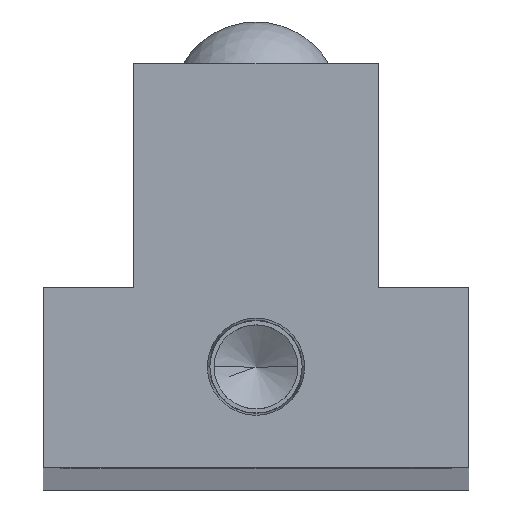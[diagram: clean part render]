
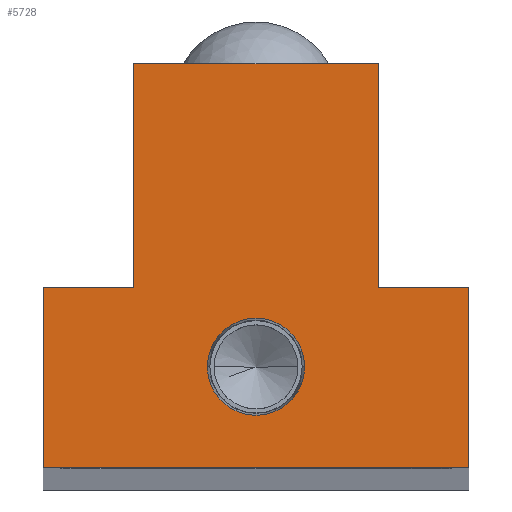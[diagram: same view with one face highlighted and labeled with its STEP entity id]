
A CAD part, top view. The second image highlights one B-rep face of the part: STEP entity #5728.
In plain terms, the highlighted planar face has unit normal (0, 0, 1).
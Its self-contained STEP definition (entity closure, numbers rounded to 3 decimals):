
#17 = ORIENTED_EDGE ( 'NONE', *, *, #5307, .T. ) ;
#62 = EDGE_CURVE ( 'NONE', #5877, #4451, #232, .T. ) ;
#123 = EDGE_CURVE ( 'NONE', #2666, #1531, #3131, .T. ) ;
#218 = VERTEX_POINT ( 'NONE', #4089 ) ;
#232 = LINE ( 'NONE', #7573, #6408 ) ;
#339 = FACE_BOUND ( 'NONE', #4722, .T. ) ;
#433 = DIRECTION ( 'NONE',  ( -1., 0., 0. ) ) ;
#442 = DIRECTION ( 'NONE',  ( -1., 0., 0. ) ) ;
#720 = AXIS2_PLACEMENT_3D ( 'NONE', #7085, #7626, #7654 ) ;
#988 = CARTESIAN_POINT ( 'NONE',  ( -20., 0., 0. ) ) ;
#1037 = DIRECTION ( 'NONE',  ( 0., 0., -1. ) ) ;
#1202 = ORIENTED_EDGE ( 'NONE', *, *, #7151, .T. ) ;
#1350 = CARTESIAN_POINT ( 'NONE',  ( -11.5, 38., 0. ) ) ;
#1394 = ORIENTED_EDGE ( 'NONE', *, *, #123, .F. ) ;
#1531 = VERTEX_POINT ( 'NONE', #6527 ) ;
#1692 = CARTESIAN_POINT ( 'NONE',  ( 11.5, 17., 0. ) ) ;
#1889 = EDGE_CURVE ( 'NONE', #6484, #218, #4611, .T. ) ;
#2115 = VECTOR ( 'NONE', #3926, 1000. ) ;
#2203 = VECTOR ( 'NONE', #442, 1000. ) ;
#2256 = ORIENTED_EDGE ( 'NONE', *, *, #1889, .T. ) ;
#2366 = CARTESIAN_POINT ( 'NONE',  ( 0., 9.5, 0. ) ) ;
#2529 = AXIS2_PLACEMENT_3D ( 'NONE', #7537, #1037, #433 ) ;
#2542 = VERTEX_POINT ( 'NONE', #1692 ) ;
#2606 = EDGE_CURVE ( 'NONE', #1531, #2666, #3866, .T. ) ;
#2666 = VERTEX_POINT ( 'NONE', #5925 ) ;
#2826 = DIRECTION ( 'NONE',  ( 0., 1., 0. ) ) ;
#2965 = DIRECTION ( 'NONE',  ( 1., 0., 0. ) ) ;
#3073 = LINE ( 'NONE', #6481, #6011 ) ;
#3131 = CIRCLE ( 'NONE', #720, 4.574 ) ;
#3155 = ORIENTED_EDGE ( 'NONE', *, *, #5122, .T. ) ;
#3248 = ORIENTED_EDGE ( 'NONE', *, *, #4339, .T. ) ;
#3366 = EDGE_CURVE ( 'NONE', #6298, #5877, #7094, .T. ) ;
#3424 = ORIENTED_EDGE ( 'NONE', *, *, #3366, .T. ) ;
#3478 = CARTESIAN_POINT ( 'NONE',  ( 11.5, 38., 0. ) ) ;
#3534 = ORIENTED_EDGE ( 'NONE', *, *, #62, .T. ) ;
#3671 = ORIENTED_EDGE ( 'NONE', *, *, #4876, .T. ) ;
#3724 = AXIS2_PLACEMENT_3D ( 'NONE', #2366, #6459, #2965 ) ;
#3726 = LINE ( 'NONE', #6211, #2115 ) ;
#3834 = VECTOR ( 'NONE', #5218, 1000. ) ;
#3866 = CIRCLE ( 'NONE', #3724, 4.574 ) ;
#3926 = DIRECTION ( 'NONE',  ( -1., 0., 0. ) ) ;
#4089 = CARTESIAN_POINT ( 'NONE',  ( -11.5, 17., 0. ) ) ;
#4147 = DIRECTION ( 'NONE',  ( 0., -1., 0. ) ) ;
#4339 = EDGE_CURVE ( 'NONE', #2542, #5701, #4586, .T. ) ;
#4356 = CARTESIAN_POINT ( 'NONE',  ( 20., 0., 0. ) ) ;
#4451 = VERTEX_POINT ( 'NONE', #5770 ) ;
#4586 = LINE ( 'NONE', #6321, #7080 ) ;
#4611 = LINE ( 'NONE', #7002, #5954 ) ;
#4711 = DIRECTION ( 'NONE',  ( 1., 0., 0. ) ) ;
#4722 = EDGE_LOOP ( 'NONE', ( #5451, #1394 ) ) ;
#4744 = VERTEX_POINT ( 'NONE', #5112 ) ;
#4752 = DIRECTION ( 'NONE',  ( -1., 0., 0. ) ) ;
#4876 = EDGE_CURVE ( 'NONE', #4744, #6298, #6707, .T. ) ;
#5024 = FACE_OUTER_BOUND ( 'NONE', #6499, .T. ) ;
#5112 = CARTESIAN_POINT ( 'NONE',  ( -20., 17., 0. ) ) ;
#5122 = EDGE_CURVE ( 'NONE', #4451, #2542, #3726, .T. ) ;
#5218 = DIRECTION ( 'NONE',  ( 0., -1., 0. ) ) ;
#5307 = EDGE_CURVE ( 'NONE', #5701, #6484, #6878, .T. ) ;
#5451 = ORIENTED_EDGE ( 'NONE', *, *, #2606, .F. ) ;
#5592 = VECTOR ( 'NONE', #4711, 1000. ) ;
#5701 = VERTEX_POINT ( 'NONE', #3478 ) ;
#5728 = ADVANCED_FACE ( 'NONE', ( #339, #5024 ), #6974, .F. ) ;
#5770 = CARTESIAN_POINT ( 'NONE',  ( 20., 17., 0. ) ) ;
#5825 = CARTESIAN_POINT ( 'NONE',  ( 20., 0., 0. ) ) ;
#5877 = VERTEX_POINT ( 'NONE', #4356 ) ;
#5919 = CARTESIAN_POINT ( 'NONE',  ( -20., 0., 0. ) ) ;
#5925 = CARTESIAN_POINT ( 'NONE',  ( -4.574, 9.5, 0. ) ) ;
#5954 = VECTOR ( 'NONE', #4147, 1000. ) ;
#6011 = VECTOR ( 'NONE', #4752, 1000. ) ;
#6211 = CARTESIAN_POINT ( 'NONE',  ( 20., 17., 0. ) ) ;
#6298 = VERTEX_POINT ( 'NONE', #5919 ) ;
#6321 = CARTESIAN_POINT ( 'NONE',  ( 11.5, 17., 0. ) ) ;
#6408 = VECTOR ( 'NONE', #7496, 1000. ) ;
#6459 = DIRECTION ( 'NONE',  ( 0., 0., 1. ) ) ;
#6481 = CARTESIAN_POINT ( 'NONE',  ( -11.5, 17., 0. ) ) ;
#6484 = VERTEX_POINT ( 'NONE', #1350 ) ;
#6499 = EDGE_LOOP ( 'NONE', ( #3155, #3248, #17, #2256, #1202, #3671, #3424, #3534 ) ) ;
#6527 = CARTESIAN_POINT ( 'NONE',  ( 4.574, 9.5, 0. ) ) ;
#6707 = LINE ( 'NONE', #988, #3834 ) ;
#6878 = LINE ( 'NONE', #7545, #2203 ) ;
#6974 = PLANE ( 'NONE',  #2529 ) ;
#7002 = CARTESIAN_POINT ( 'NONE',  ( -11.5, 17., 0. ) ) ;
#7080 = VECTOR ( 'NONE', #2826, 1000. ) ;
#7085 = CARTESIAN_POINT ( 'NONE',  ( 0., 9.5, 0. ) ) ;
#7094 = LINE ( 'NONE', #5825, #5592 ) ;
#7151 = EDGE_CURVE ( 'NONE', #218, #4744, #3073, .T. ) ;
#7496 = DIRECTION ( 'NONE',  ( 0., 1., 0. ) ) ;
#7537 = CARTESIAN_POINT ( 'NONE',  ( 0., 0., 0. ) ) ;
#7545 = CARTESIAN_POINT ( 'NONE',  ( 11.5, 38., 0. ) ) ;
#7573 = CARTESIAN_POINT ( 'NONE',  ( 20., 17., 0. ) ) ;
#7626 = DIRECTION ( 'NONE',  ( 0., 0., 1. ) ) ;
#7654 = DIRECTION ( 'NONE',  ( 1., 0., 0. ) ) ;
